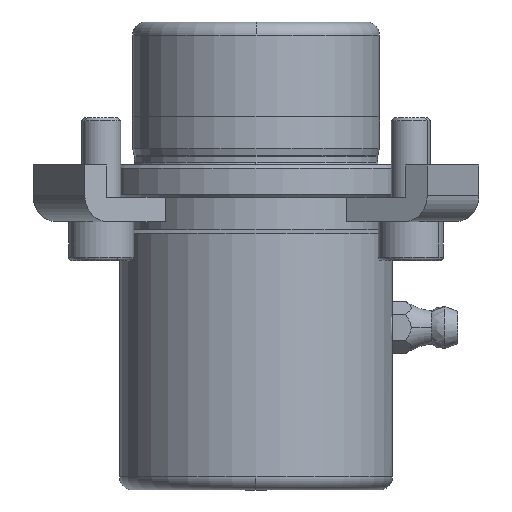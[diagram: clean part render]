
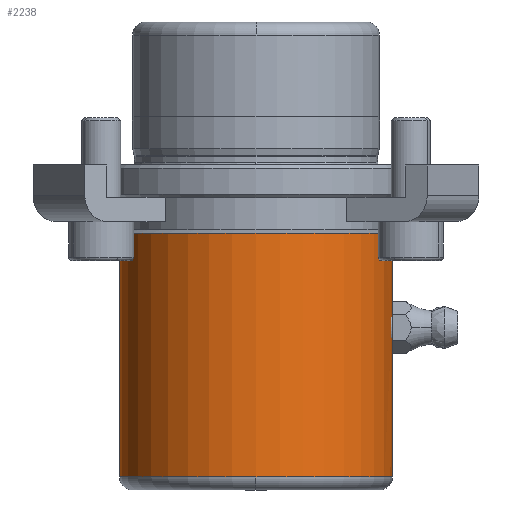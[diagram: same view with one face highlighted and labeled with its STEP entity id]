
A CAD part, front view. The second image highlights one B-rep face of the part: STEP entity #2238.
In plain terms, the highlighted cylindrical face has radius 21 mm (diameter 42 mm), a partial arc.
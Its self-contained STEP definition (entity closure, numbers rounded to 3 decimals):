
#604=CARTESIAN_POINT('',(0.,-21.,-48.));
#605=VERTEX_POINT('',#604);
#613=CARTESIAN_POINT('',(-21.0,0.,-48.0));
#614=VERTEX_POINT('',#613);
#615=CARTESIAN_POINT('',(0.0,0.,-48.0));
#616=DIRECTION('',(0.0,0.0,-1.0));
#617=DIRECTION('',(1.0,0.0,0.0));
#618=AXIS2_PLACEMENT_3D('',#615,#616,#617);
#619=CIRCLE('',#618,21.0);
#620=EDGE_CURVE('',#605,#614,#619,.T.);
#637=CARTESIAN_POINT('',(21.0,0.,-48.));
#638=VERTEX_POINT('',#637);
#639=CARTESIAN_POINT('',(21.0,0.,-27.5));
#640=VERTEX_POINT('',#639);
#641=CARTESIAN_POINT('',(21.0,0.,-48.));
#642=DIRECTION('',(0.0,0.0,1.0));
#643=VECTOR('',#642,20.5);
#644=LINE('',#641,#643);
#645=EDGE_CURVE('',#638,#640,#644,.T.);
#655=CARTESIAN_POINT('',(-21.0,0.,-10.5));
#656=VERTEX_POINT('',#655);
#657=CARTESIAN_POINT('',(-21.0,0.,-48.0));
#658=DIRECTION('',(0.0,0.0,1.0));
#659=VECTOR('',#658,37.5);
#660=LINE('',#657,#659);
#661=EDGE_CURVE('',#614,#656,#660,.T.);
#663=CARTESIAN_POINT('',(21.0,0.,-10.5));
#664=VERTEX_POINT('',#663);
#672=CARTESIAN_POINT('',(21.0,0.,-22.5));
#673=VERTEX_POINT('',#672);
#674=CARTESIAN_POINT('',(21.0,0.,-22.5));
#675=DIRECTION('',(0.0,0.0,1.0));
#676=VECTOR('',#675,12.0);
#677=LINE('',#674,#676);
#678=EDGE_CURVE('',#673,#664,#677,.T.);
#1577=CARTESIAN_POINT('',(20.851,-2.5,-25.0));
#1578=VERTEX_POINT('',#1577);
#1579=CARTESIAN_POINT('',(20.851,-2.5,-25.0));
#1580=CARTESIAN_POINT('',(20.851,-2.5,-24.843));
#1581=CARTESIAN_POINT('',(20.852,-2.485,-24.68));
#1582=CARTESIAN_POINT('',(20.86,-2.422,-24.357));
#1583=CARTESIAN_POINT('',(20.866,-2.373,-24.197));
#1584=CARTESIAN_POINT('',(20.88,-2.246,-23.889));
#1585=CARTESIAN_POINT('',(20.888,-2.166,-23.741));
#1586=CARTESIAN_POINT('',(20.906,-1.983,-23.468));
#1587=CARTESIAN_POINT('',(20.916,-1.879,-23.343));
#1588=CARTESIAN_POINT('',(20.935,-1.657,-23.121));
#1589=CARTESIAN_POINT('',(20.945,-1.532,-23.017));
#1590=CARTESIAN_POINT('',(20.963,-1.259,-22.834));
#1591=CARTESIAN_POINT('',(20.971,-1.111,-22.754));
#1592=CARTESIAN_POINT('',(20.985,-0.803,-22.627));
#1593=CARTESIAN_POINT('',(20.991,-0.643,-22.578));
#1594=CARTESIAN_POINT('',(20.998,-0.32,-22.515));
#1595=CARTESIAN_POINT('',(21.0,-0.157,-22.5));
#1596=CARTESIAN_POINT('',(21.0,0.,-22.5));
#1597=B_SPLINE_CURVE_WITH_KNOTS('',3,(#1579,#1580,#1581,#1582,#1583,#1584,#1585,#1586,#1587,#1588,#1589,#1590,#1591,#1592,#1593,#1594,#1595,#1596),.UNSPECIFIED.,.F.,.U.,(4,2,2,2,2,2,2,2,4),(0.0,0.471,0.943,1.414,1.885,2.357,2.828,3.299,3.771),.UNSPECIFIED.);
#1598=EDGE_CURVE('',#1578,#673,#1597,.T.);
#1600=CARTESIAN_POINT('',(21.0,0.,-27.5));
#1601=CARTESIAN_POINT('',(21.0,-0.157,-27.5));
#1602=CARTESIAN_POINT('',(20.998,-0.32,-27.485));
#1603=CARTESIAN_POINT('',(20.991,-0.643,-27.422));
#1604=CARTESIAN_POINT('',(20.985,-0.803,-27.373));
#1605=CARTESIAN_POINT('',(20.971,-1.111,-27.246));
#1606=CARTESIAN_POINT('',(20.963,-1.259,-27.166));
#1607=CARTESIAN_POINT('',(20.945,-1.532,-26.983));
#1608=CARTESIAN_POINT('',(20.935,-1.657,-26.879));
#1609=CARTESIAN_POINT('',(20.916,-1.879,-26.657));
#1610=CARTESIAN_POINT('',(20.906,-1.983,-26.532));
#1611=CARTESIAN_POINT('',(20.888,-2.166,-26.259));
#1612=CARTESIAN_POINT('',(20.88,-2.246,-26.111));
#1613=CARTESIAN_POINT('',(20.866,-2.373,-25.803));
#1614=CARTESIAN_POINT('',(20.86,-2.422,-25.643));
#1615=CARTESIAN_POINT('',(20.852,-2.485,-25.32));
#1616=CARTESIAN_POINT('',(20.851,-2.5,-25.157));
#1617=CARTESIAN_POINT('',(20.851,-2.5,-25.0));
#1618=B_SPLINE_CURVE_WITH_KNOTS('',3,(#1600,#1601,#1602,#1603,#1604,#1605,#1606,#1607,#1608,#1609,#1610,#1611,#1612,#1613,#1614,#1615,#1616,#1617),.UNSPECIFIED.,.F.,.U.,(4,2,2,2,2,2,2,2,4),(11.312,11.783,12.255,12.726,13.197,13.669,14.14,14.611,15.083),.UNSPECIFIED.);
#1619=EDGE_CURVE('',#640,#1578,#1618,.T.);
#2207=CARTESIAN_POINT('',(0.0,0.,-10.5));
#2208=DIRECTION('',(0.0,0.0,-1.0));
#2209=DIRECTION('',(1.0,0.0,0.0));
#2210=AXIS2_PLACEMENT_3D('',#2207,#2208,#2209);
#2211=CIRCLE('',#2210,21.0);
#2212=EDGE_CURVE('',#664,#656,#2211,.T.);
#2217=CARTESIAN_POINT('',(0.0,0.,-29.25));
#2218=DIRECTION('',(0.0,0.,-1.0));
#2219=DIRECTION('',(1.0,0.0,0.0));
#2220=AXIS2_PLACEMENT_3D('',#2217,#2218,#2219);
#2221=CYLINDRICAL_SURFACE('',#2220,21.0);
#2222=ORIENTED_EDGE('',*,*,#645,.T.);
#2223=ORIENTED_EDGE('',*,*,#1619,.T.);
#2224=ORIENTED_EDGE('',*,*,#1598,.T.);
#2225=ORIENTED_EDGE('',*,*,#678,.T.);
#2226=ORIENTED_EDGE('',*,*,#2212,.T.);
#2227=ORIENTED_EDGE('',*,*,#661,.F.);
#2228=ORIENTED_EDGE('',*,*,#620,.F.);
#2229=CARTESIAN_POINT('',(0.0,0.,-48.0));
#2230=DIRECTION('',(0.0,0.0,-1.0));
#2231=DIRECTION('',(1.0,0.0,0.0));
#2232=AXIS2_PLACEMENT_3D('',#2229,#2230,#2231);
#2233=CIRCLE('',#2232,21.0);
#2234=EDGE_CURVE('',#638,#605,#2233,.T.);
#2235=ORIENTED_EDGE('',*,*,#2234,.F.);
#2236=EDGE_LOOP('',(#2222,#2223,#2224,#2225,#2226,#2227,#2228,#2235));
#2237=FACE_OUTER_BOUND('',#2236,.T.);
#2238=ADVANCED_FACE('',(#2237),#2221,.T.);
